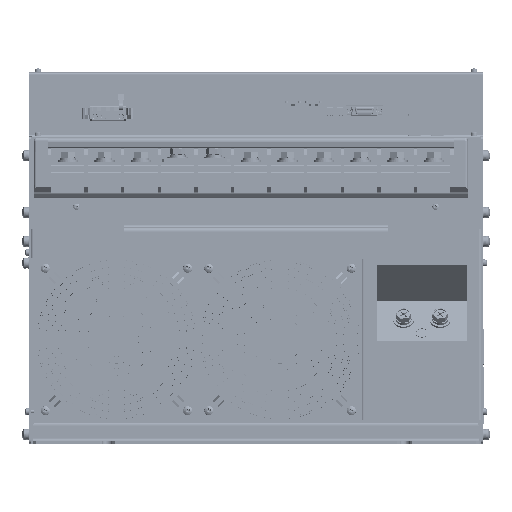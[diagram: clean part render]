
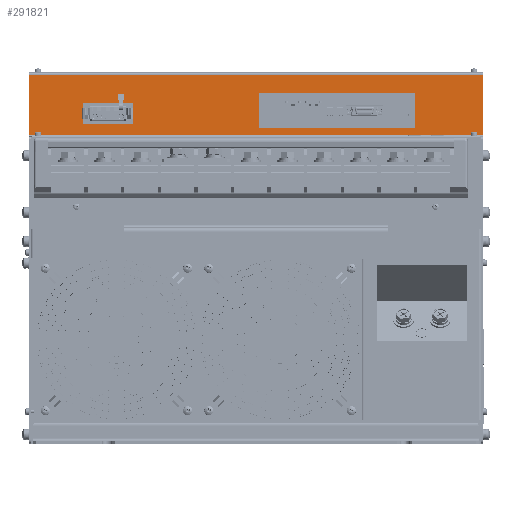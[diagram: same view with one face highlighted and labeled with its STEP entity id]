
A CAD part, front view. The second image highlights one B-rep face of the part: STEP entity #291821.
In plain terms, the highlighted planar face has unit normal (0, -1, 0).
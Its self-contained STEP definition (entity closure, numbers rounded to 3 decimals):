
#1423 = ORIENTED_EDGE ( 'NONE', *, *, #146174, .F. ) ;
#11649 = ORIENTED_EDGE ( 'NONE', *, *, #231790, .F. ) ;
#25578 = EDGE_LOOP ( 'NONE', ( #228519, #470658, #11649, #240684 ) ) ;
#26944 = VECTOR ( 'NONE', #304745, 1000. ) ;
#32977 = DIRECTION ( 'NONE',  ( 0., 0., -1. ) ) ;
#33345 = EDGE_LOOP ( 'NONE', ( #591278, #1423, #570033, #290670 ) ) ;
#35197 = EDGE_CURVE ( 'NONE', #487812, #140226, #189726, .T. ) ;
#52581 = EDGE_CURVE ( 'NONE', #541706, #448296, #512435, .T. ) ;
#72329 = CARTESIAN_POINT ( 'NONE',  ( 198.6, 74.5, 250. ) ) ;
#86338 = VERTEX_POINT ( 'NONE', #575909 ) ;
#103531 = DIRECTION ( 'NONE',  ( 1., 0., 0. ) ) ;
#108932 = CARTESIAN_POINT ( 'NONE',  ( -107.6, 74.5, 277.6 ) ) ;
#109565 = LINE ( 'NONE', #544893, #26944 ) ;
#113743 = LINE ( 'NONE', #131741, #121566 ) ;
#121566 = VECTOR ( 'NONE', #123468, 1000. ) ;
#123468 = DIRECTION ( 'NONE',  ( 1., 0., 0. ) ) ;
#125589 = CARTESIAN_POINT ( 'NONE',  ( -151.6, 74.5, 277.6 ) ) ;
#131741 = CARTESIAN_POINT ( 'NONE',  ( -151.6, 74.5, 259.6 ) ) ;
#132996 = CARTESIAN_POINT ( 'NONE',  ( 139.3, 74.5, 286.2 ) ) ;
#134117 = CARTESIAN_POINT ( 'NONE',  ( 2.3, 74.5, 286.2 ) ) ;
#138327 = PLANE ( 'NONE',  #215798 ) ;
#140226 = VERTEX_POINT ( 'NONE', #161371 ) ;
#143131 = LINE ( 'NONE', #563356, #490150 ) ;
#146174 = EDGE_CURVE ( 'NONE', #206769, #541706, #143131, .T. ) ;
#148247 = CARTESIAN_POINT ( 'NONE',  ( 198.6, 74.5, 249. ) ) ;
#151336 = ORIENTED_EDGE ( 'NONE', *, *, #461930, .F. ) ;
#157267 = VERTEX_POINT ( 'NONE', #303677 ) ;
#161371 = CARTESIAN_POINT ( 'NONE',  ( -198.6, 74.5, 250. ) ) ;
#169622 = DIRECTION ( 'NONE',  ( 0., 0., -1. ) ) ;
#171403 = EDGE_CURVE ( 'NONE', #609073, #319518, #435476, .T. ) ;
#174851 = VECTOR ( 'NONE', #293525, 1000. ) ;
#175337 = DIRECTION ( 'NONE',  ( -1., 0., 0. ) ) ;
#178164 = LINE ( 'NONE', #211177, #607931 ) ;
#189726 = LINE ( 'NONE', #72329, #559159 ) ;
#198192 = VECTOR ( 'NONE', #169622, 1000. ) ;
#201160 = VECTOR ( 'NONE', #211919, 1000. ) ;
#205098 = FACE_BOUND ( 'NONE', #33345, .T. ) ;
#206769 = VERTEX_POINT ( 'NONE', #108932 ) ;
#211177 = CARTESIAN_POINT ( 'NONE',  ( -107.6, 74.5, 277.6 ) ) ;
#211919 = DIRECTION ( 'NONE',  ( 1., 0., 0. ) ) ;
#215798 = AXIS2_PLACEMENT_3D ( 'NONE', #380586, #228999, #477540 ) ;
#220221 = FACE_BOUND ( 'NONE', #284373, .T. ) ;
#228519 = ORIENTED_EDGE ( 'NONE', *, *, #406487, .F. ) ;
#228999 = DIRECTION ( 'NONE',  ( 0., -1., 0. ) ) ;
#231790 = EDGE_CURVE ( 'NONE', #86338, #487812, #250377, .T. ) ;
#240684 = ORIENTED_EDGE ( 'NONE', *, *, #291563, .F. ) ;
#246775 = CARTESIAN_POINT ( 'NONE',  ( 198.6, 74.5, 302.4 ) ) ;
#250377 = LINE ( 'NONE', #148247, #174851 ) ;
#260613 = CARTESIAN_POINT ( 'NONE',  ( -151.6, 74.5, 259.6 ) ) ;
#284373 = EDGE_LOOP ( 'NONE', ( #151336, #396243, #328702, #347829 ) ) ;
#284796 = CARTESIAN_POINT ( 'NONE',  ( 139.3, 74.5, 286.2 ) ) ;
#290670 = ORIENTED_EDGE ( 'NONE', *, *, #300696, .F. ) ;
#291563 = EDGE_CURVE ( 'NONE', #157267, #86338, #431246, .T. ) ;
#291821 = ADVANCED_FACE ( 'NONE', ( #521790, #205098, #220221 ), #138327, .T. ) ;
#293525 = DIRECTION ( 'NONE',  ( 0., 0., -1. ) ) ;
#300696 = EDGE_CURVE ( 'NONE', #448296, #414998, #113743, .T. ) ;
#303677 = CARTESIAN_POINT ( 'NONE',  ( -198.6, 74.5, 302.4 ) ) ;
#304745 = DIRECTION ( 'NONE',  ( 0., 0., 1. ) ) ;
#306635 = CARTESIAN_POINT ( 'NONE',  ( 2.3, 74.5, 256.2 ) ) ;
#318951 = DIRECTION ( 'NONE',  ( -1., 0., 0. ) ) ;
#319518 = VERTEX_POINT ( 'NONE', #132996 ) ;
#323265 = CARTESIAN_POINT ( 'NONE',  ( 2.3, 74.5, 286.2 ) ) ;
#326238 = VECTOR ( 'NONE', #376374, 1000. ) ;
#328702 = ORIENTED_EDGE ( 'NONE', *, *, #171403, .F. ) ;
#347829 = ORIENTED_EDGE ( 'NONE', *, *, #430112, .F. ) ;
#355707 = CARTESIAN_POINT ( 'NONE',  ( 2.3, 74.5, 286.2 ) ) ;
#361491 = CARTESIAN_POINT ( 'NONE',  ( -107.6, 74.5, 259.6 ) ) ;
#364901 = CARTESIAN_POINT ( 'NONE',  ( -151.6, 74.5, 277.6 ) ) ;
#367675 = VECTOR ( 'NONE', #559153, 1000. ) ;
#376374 = DIRECTION ( 'NONE',  ( -1., 0., 0. ) ) ;
#378594 = VECTOR ( 'NONE', #103531, 1000. ) ;
#380586 = CARTESIAN_POINT ( 'NONE',  ( 0., 74.5, 249. ) ) ;
#396243 = ORIENTED_EDGE ( 'NONE', *, *, #423912, .F. ) ;
#406487 = EDGE_CURVE ( 'NONE', #140226, #157267, #109565, .T. ) ;
#408970 = CARTESIAN_POINT ( 'NONE',  ( 198.6, 74.5, 250. ) ) ;
#414998 = VERTEX_POINT ( 'NONE', #361491 ) ;
#423912 = EDGE_CURVE ( 'NONE', #319518, #570783, #613405, .T. ) ;
#430112 = EDGE_CURVE ( 'NONE', #483361, #609073, #517852, .T. ) ;
#431246 = LINE ( 'NONE', #246775, #378594 ) ;
#435476 = LINE ( 'NONE', #284796, #367675 ) ;
#448296 = VERTEX_POINT ( 'NONE', #260613 ) ;
#457596 = DIRECTION ( 'NONE',  ( 0., 0., 1. ) ) ;
#459433 = EDGE_CURVE ( 'NONE', #414998, #206769, #178164, .T. ) ;
#461930 = EDGE_CURVE ( 'NONE', #570783, #483361, #582641, .T. ) ;
#470658 = ORIENTED_EDGE ( 'NONE', *, *, #35197, .F. ) ;
#477540 = DIRECTION ( 'NONE',  ( -1., 0., 0. ) ) ;
#483361 = VERTEX_POINT ( 'NONE', #553914 ) ;
#487812 = VERTEX_POINT ( 'NONE', #408970 ) ;
#490150 = VECTOR ( 'NONE', #318951, 1000. ) ;
#512435 = LINE ( 'NONE', #125589, #625388 ) ;
#517852 = LINE ( 'NONE', #306635, #201160 ) ;
#521790 = FACE_OUTER_BOUND ( 'NONE', #25578, .T. ) ;
#541706 = VERTEX_POINT ( 'NONE', #364901 ) ;
#544893 = CARTESIAN_POINT ( 'NONE',  ( -198.6, 74.5, 302.4 ) ) ;
#553914 = CARTESIAN_POINT ( 'NONE',  ( 2.3, 74.5, 256.2 ) ) ;
#559153 = DIRECTION ( 'NONE',  ( 0., 0., 1. ) ) ;
#559159 = VECTOR ( 'NONE', #175337, 1000. ) ;
#563356 = CARTESIAN_POINT ( 'NONE',  ( -151.6, 74.5, 277.6 ) ) ;
#570033 = ORIENTED_EDGE ( 'NONE', *, *, #459433, .F. ) ;
#570783 = VERTEX_POINT ( 'NONE', #355707 ) ;
#575909 = CARTESIAN_POINT ( 'NONE',  ( 198.6, 74.5, 302.4 ) ) ;
#577129 = CARTESIAN_POINT ( 'NONE',  ( 139.3, 74.5, 256.2 ) ) ;
#582641 = LINE ( 'NONE', #323265, #198192 ) ;
#591278 = ORIENTED_EDGE ( 'NONE', *, *, #52581, .F. ) ;
#607931 = VECTOR ( 'NONE', #457596, 1000. ) ;
#609073 = VERTEX_POINT ( 'NONE', #577129 ) ;
#613405 = LINE ( 'NONE', #134117, #326238 ) ;
#625388 = VECTOR ( 'NONE', #32977, 1000. ) ;
